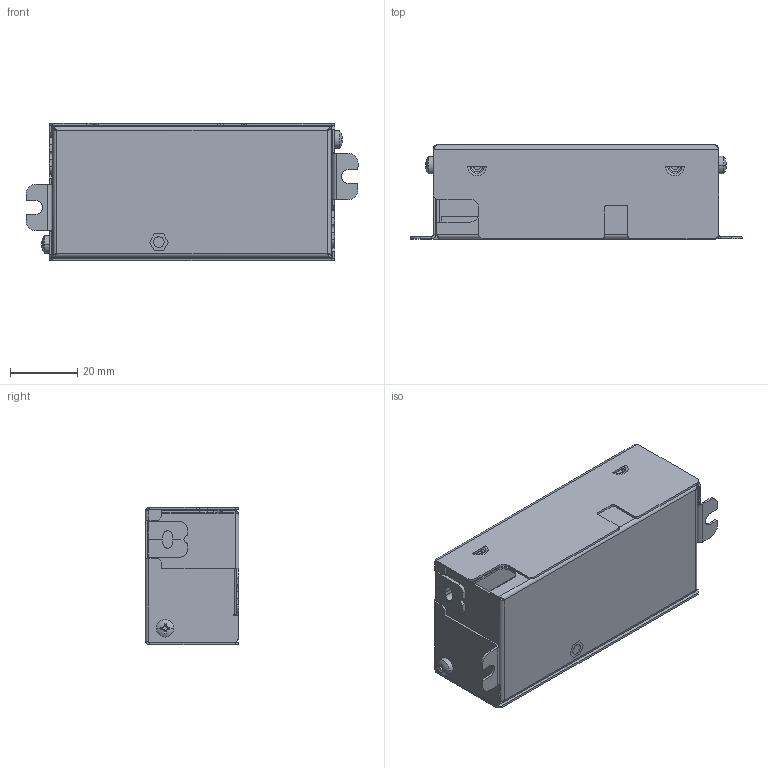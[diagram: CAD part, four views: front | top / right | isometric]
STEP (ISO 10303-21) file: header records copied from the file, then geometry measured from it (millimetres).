
FILE_DESCRIPTION (( 'STEP AP203' ), '1' );
FILE_NAME ('Box Assy-900-00017.STEP', '2022-12-22T03:12:16', ( '' ), ( '' ), 'SwSTEP 2.0', 'SolidWorks 2017', '' );
FILE_SCHEMA (( 'CONFIG_CONTROL_DESIGN' ));
Length unit declared in the file: millimetre
Products named in the file (10): M2x5; 367-00001; 732-00000202  Bushing-4謂; Box Assy-900-00017; PCB-900-00017; 732-00000301  Bushing-2謂; 368-00001; M3x6; BSO M2-5- 3.81
Assembly tree (10 placements, depth 3):
  Box Assy-900-00017
    367-00001
      367-00001
      BSO M2-5- 3.81
    732-00000301  Bushing-2謂
    732-00000202  Bushing-4謂
    M3x6  x2
    PCB-900-00017
    M2x5
    368-00001
Bounding box: 99 x 28 x 41 mm (x, y, z)
Volume: 17307.1 mm3; surface area: 44877.8 mm2
Topology: 9 solids, 9 shells, 518 faces, 1368 edges, 866 vertices
Faces by surface type: plane 320, cylinder 124, torus 30, cone 28, bspline 16
Entity records: 16850 total; most frequent: CARTESIAN_POINT 3733, ORIENTED_EDGE 2576, DIRECTION 2430, EDGE_CURVE 1288, VECTOR 840, LINE 840, VERTEX_POINT 814, AXIS2_PLACEMENT_3D 795
